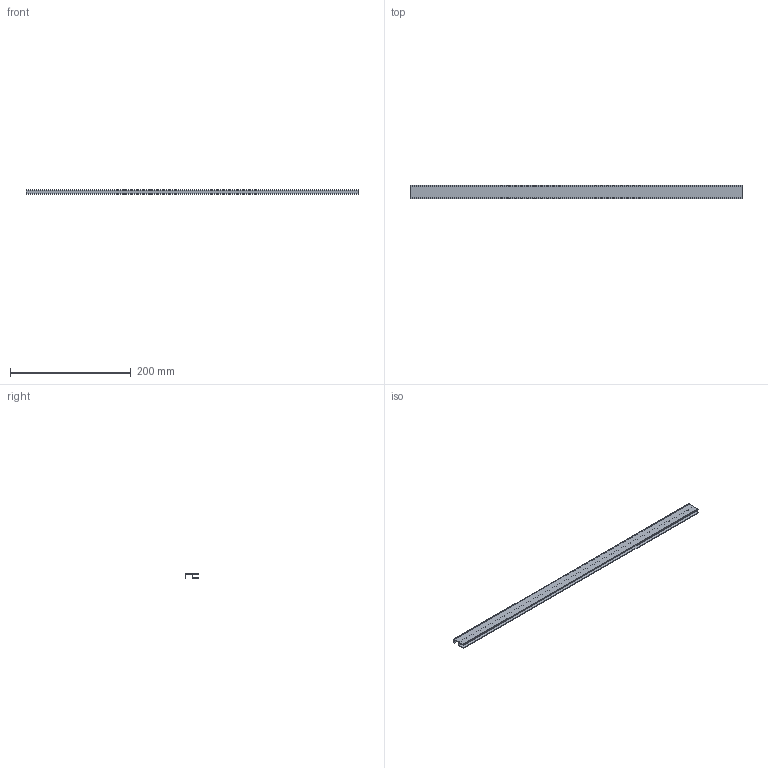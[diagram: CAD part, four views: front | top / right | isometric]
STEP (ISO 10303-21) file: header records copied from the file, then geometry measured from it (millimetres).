
FILE_DESCRIPTION((''),'2;1');
FILE_NAME('4650000000_SEMPLIFICATO','2022-04-19T16:35:37',('SimoneD'),(''),'CREO PARAMETRIC BY PTC INC, 2020053','CREO PARAMETRIC BY PTC INC, 2020053','');
FILE_SCHEMA(('CONFIG_CONTROL_DESIGN'));
Length unit declared in the file: millimetre
Products named in the file (1): 4650000000_SEMPLIFICATO
Bounding box: 550 x 22.6 x 7.8 mm (x, y, z)
Volume: 28504.8 mm3; surface area: 50997.8 mm2
Topology: 1 solids, 1 shells, 27 faces, 75 edges, 50 vertices
Faces by surface type: plane 16, cylinder 11
Entity records: 909 total; most frequent: CARTESIAN_POINT 152, DIRECTION 151, ORIENTED_EDGE 150, EDGE_CURVE 75, VECTOR 53, LINE 53, VERTEX_POINT 50, AXIS2_PLACEMENT_3D 49
